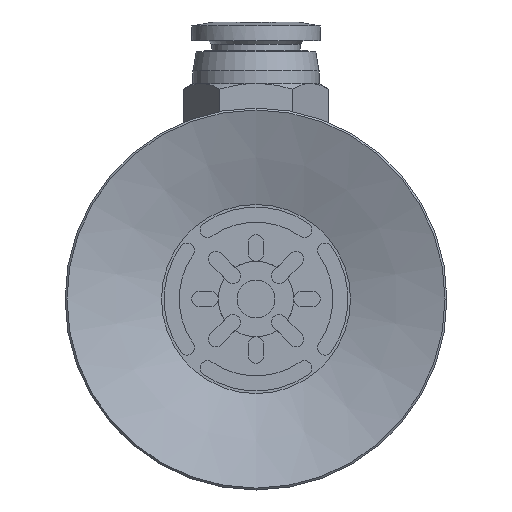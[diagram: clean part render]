
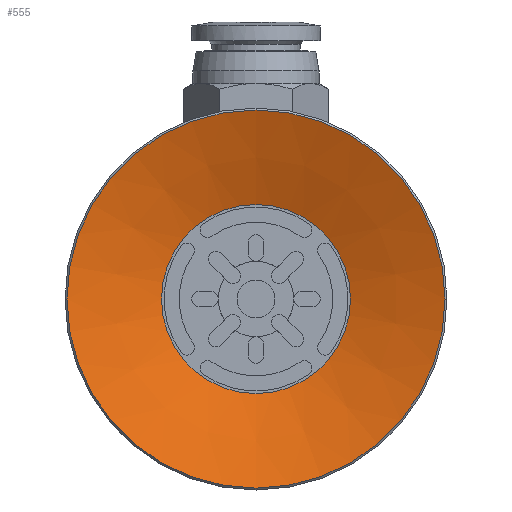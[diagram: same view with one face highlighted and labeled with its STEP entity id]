
A CAD part, front view. The second image highlights one B-rep face of the part: STEP entity #555.
In plain terms, the highlighted conical face has half-angle 70.201 degrees and reference radius 7.5 mm.
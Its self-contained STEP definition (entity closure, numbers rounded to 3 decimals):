
#555=ADVANCED_FACE('',(#924,#925),#926,.F.);
#924=FACE_BOUND('',#1472,.T.);
#925=FACE_OUTER_BOUND('',#1473,.T.);
#926=CONICAL_SURFACE('',#1474,7.5,1.225);
#1472=EDGE_LOOP('',(#2710));
#1473=EDGE_LOOP('',(#2711));
#1474=AXIS2_PLACEMENT_3D('',#2712,#2713,#2714);
#2710=ORIENTED_EDGE('',*,*,#3884,.F.);
#2711=ORIENTED_EDGE('',*,*,#3885,.T.);
#2712=CARTESIAN_POINT('',(0.0,0.0,2.7));
#2713=DIRECTION('',(0.0,0.,-1.0));
#2714=DIRECTION('',(0.0,1.0,0.));
#3884=EDGE_CURVE('',#4513,#4513,#4514,.T.);
#3885=EDGE_CURVE('',#4515,#4515,#4516,.T.);
#4513=VERTEX_POINT('',#5826);
#4514=CIRCLE('',#5827,7.5);
#4515=VERTEX_POINT('',#5828);
#4516=CIRCLE('',#5829,15.0);
#5826=CARTESIAN_POINT('',(0.0,7.5,2.7));
#5827=AXIS2_PLACEMENT_3D('',#7011,#7012,#7013);
#5828=CARTESIAN_POINT('',(0.0,15.0,0.));
#5829=AXIS2_PLACEMENT_3D('',#7014,#7015,#7016);
#7011=CARTESIAN_POINT('',(0.0,0.0,2.7));
#7012=DIRECTION('',(0.0,0.,-1.0));
#7013=DIRECTION('',(0.0,1.0,0.));
#7014=CARTESIAN_POINT('',(0.0,0.0,0.0));
#7015=DIRECTION('',(0.0,0.,-1.0));
#7016=DIRECTION('',(0.0,1.0,0.));
